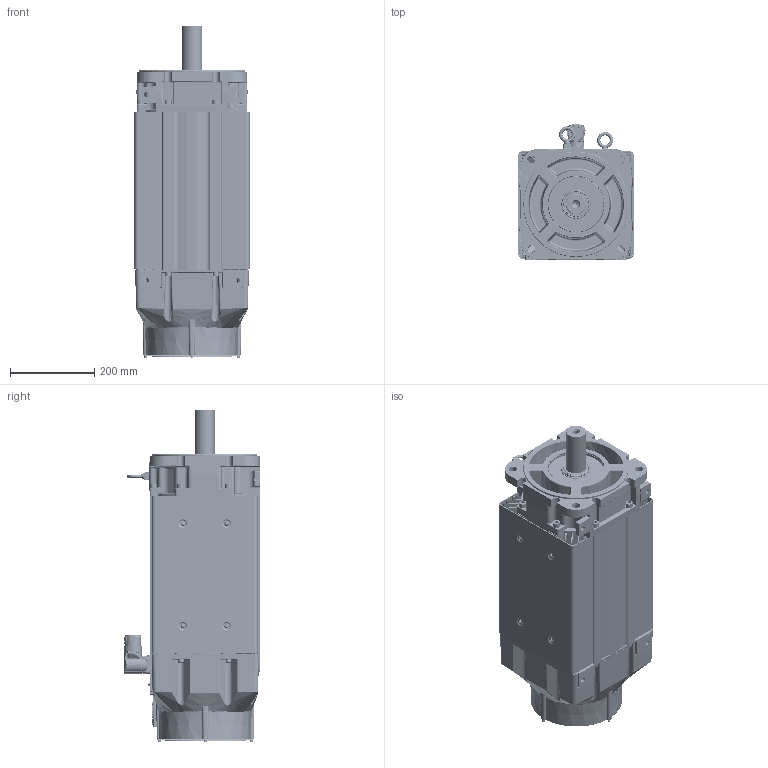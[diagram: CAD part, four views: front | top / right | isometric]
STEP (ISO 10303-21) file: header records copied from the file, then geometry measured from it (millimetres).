
FILE_DESCRIPTION((''),'2;1');
FILE_NAME('VPC-B30039-QK14FX_ASM','2016-09-27T',('SRGaddam'),('Rockwell Automation'),'PRO/ENGINEER BY PARAMETRIC TECHNOLOGY CORPORATION, 2012480','PRO/ENGINEER BY PARAMETRIC TECHNOLOGY CORPORATION, 2012480','');
FILE_SCHEMA(('CONFIG_CONTROL_DESIGN'));
Products named in the file (37): 10001404634_AF0; 10001404629_AF6; 10001404635_ASM; 10001585735; 10001441962; 10001737030; 10001448103; 10001587021; 10001405269_AF71; 10001405240_AF78; 10001405369_ASM; 10001946256; 10001956852; 10001989665; 10001713549_ASM; M4X7X14-SOCHD-CAP-SCR; 10001978970; 10001336508; 10001587431; CH4X063; 10001299929; 10001284567; 10000172464; 10001445961; 221404-Q12; 10000231113; 10002279234; 10001443420_ASM; 10001609981; 0002-5004; 10001586887; 10001439756; 142408_740; PRT0002_740; 142408-1_740_ASM; M740_ASM; VPC-B30039-QK14FX_ASM
Assembly tree (72 placements, depth 4):
  VPC-B30039-QK14FX_ASM
    10001404635_ASM
      10001404634_AF0
      10001404629_AF6
    10001585735  x8
    10001441962
    10001737030
    10001448103  x2
    10001587021  x8
    10001405369_ASM
      10001405269_AF71
      10001405240_AF78
    10001443420_ASM
      10001946256
      10001713549_ASM
        10001956852
        10001989665
      M4X7X14-SOCHD-CAP-SCR  x4
      10001978970
      10001336508
      10001587431
      CH4X063  x2
      10001299929
      10001284567
      10000172464  x4
      10001445961
      221404-Q12  x5
      10000231113
      10002279234
    10001609981
    0002-5004  x2
    10001586887  x6
    10001439756
    M740_ASM
      142408-1_740_ASM
        142408_740
        PRT0002_740
      221404-Q12  x4
Bounding box: 275.91 x 324.15 x 787.35 mm (x, y, z)
Volume: 12721252.1 mm3; surface area: 3155881.6 mm2
Topology: 78 solids, 79 shells, 7214 faces, 17033 edges, 10199 vertices
Faces by surface type: cylinder 2218, plane 2035, bspline 1176, cone 1055, torus 591, sphere 134, extrusion 5
Entity records: 206528 total; most frequent: CARTESIAN_POINT 89675, ORIENTED_EDGE 25048, DIRECTION 23025, EDGE_CURVE 12524, AXIS2_PLACEMENT_3D 8847, VERTEX_POINT 7705, EDGE_LOOP 5675, VECTOR 5331
